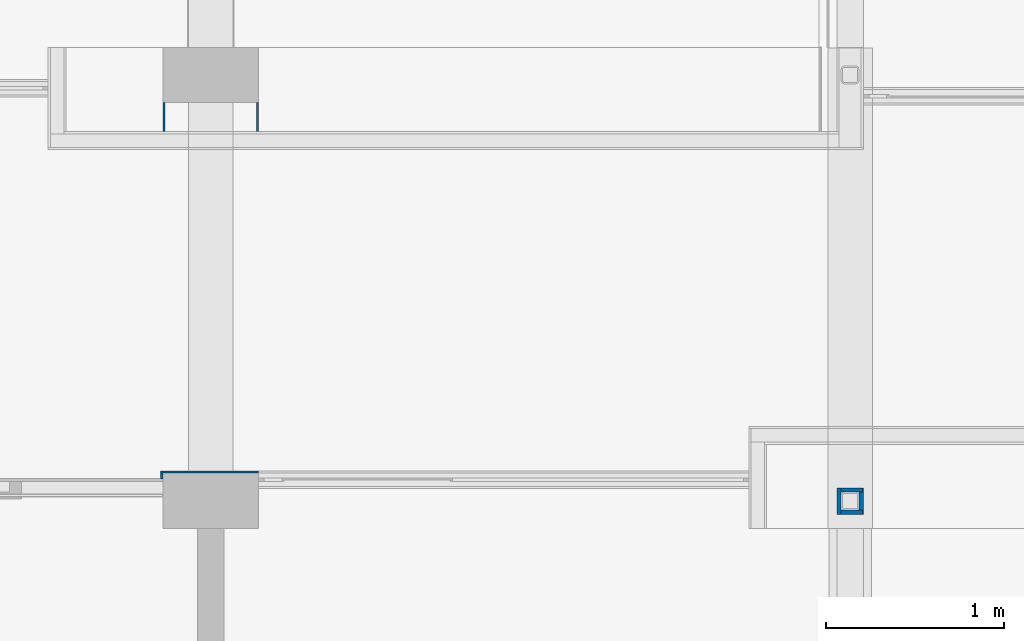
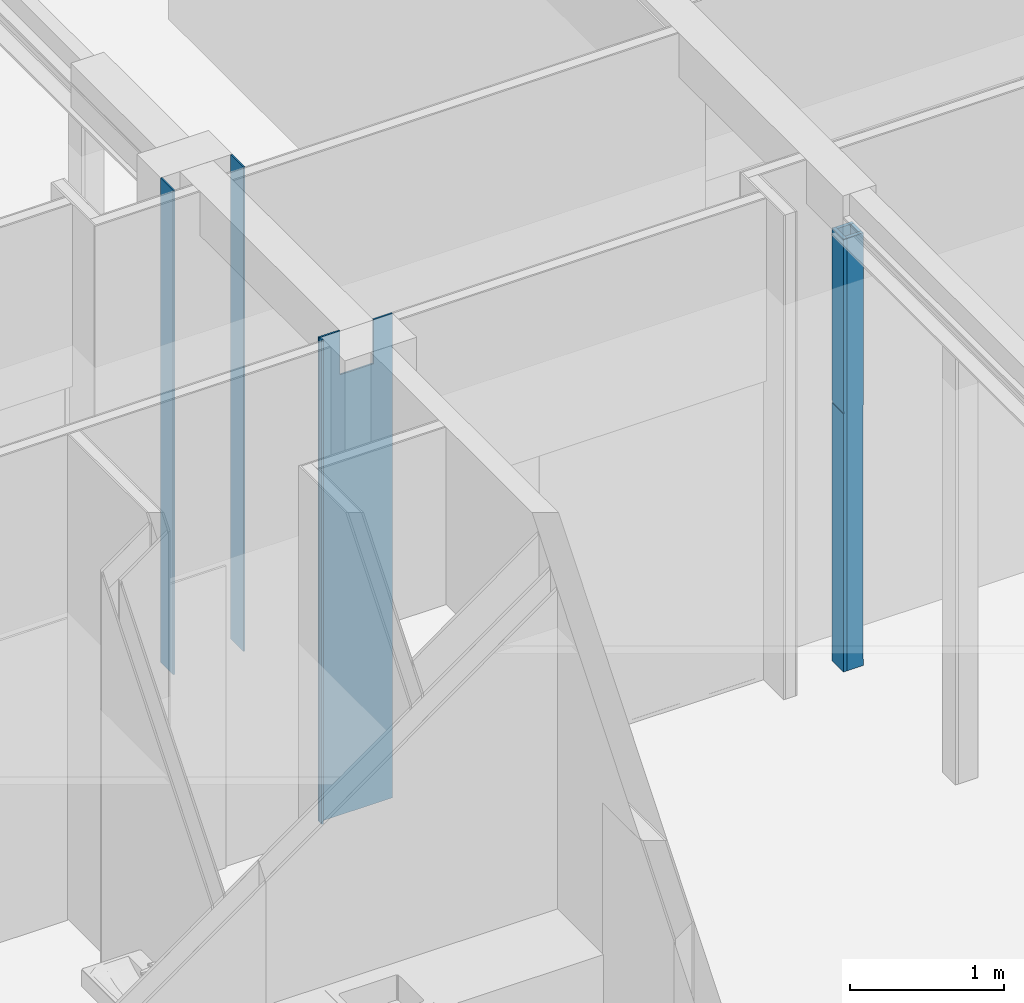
# One storey, part 87 of 135: 8 walls.
"""IFC2X3 building model written with IfcOpenShell, lengths in millimetres."""

from ifc_helpers import new_model, entity, si_unit, converted_unit, derived_unit, money_unit, direction, frame, origin_with_axes, place, context, subcontext, project, spatial, faceted_brep, material, type_object, element, save


model = new_model("IFC2X3")

# Units and contexts
model_context = context("Model", 3, precision=0.01, world=origin_with_axes(), true_north=direction((0.0, 1.0)))
body_context = subcontext(model_context, "Body", "Model", "MODEL_VIEW")
ifc_project = project(units=[si_unit("LENGTHUNIT", "METRE", prefix="MILLI"), si_unit("AREAUNIT", "SQUARE_METRE"), si_unit("VOLUMEUNIT", "CUBIC_METRE"), converted_unit("PLANEANGLEUNIT", "DEGREE", entity("IfcPlaneAngleMeasure", 0.0174532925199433), si_unit("PLANEANGLEUNIT", "RADIAN"), dimensions=[0, 0, 0, 0, 0, 0, 0]), money_unit("EUR"), converted_unit("TIMEUNIT", "Year", entity("IfcTimeMeasure", 31557600.0), si_unit("TIMEUNIT", "SECOND"), dimensions=[0, 0, 1, 0, 0, 0, 0]), si_unit("MASSUNIT", "GRAM", prefix="KILO"), si_unit("THERMODYNAMICTEMPERATUREUNIT", "DEGREE_CELSIUS"), si_unit("LUMINOUSINTENSITYUNIT", "LUMEN"), si_unit("ENERGYUNIT", "JOULE", prefix="MEGA"), derived_unit("THERMALCONDUCTANCEUNIT", [(si_unit("POWERUNIT", "WATT"), 1), (si_unit("LENGTHUNIT", "METRE"), -1), (si_unit("THERMODYNAMICTEMPERATUREUNIT", "KELVIN"), -1)]), derived_unit("SPECIFICHEATCAPACITYUNIT", [(si_unit("ENERGYUNIT", "JOULE"), 1), (si_unit("MASSUNIT", "GRAM", prefix="KILO"), -1), (si_unit("THERMODYNAMICTEMPERATUREUNIT", "KELVIN"), -1)]), derived_unit("MASSDENSITYUNIT", [(si_unit("MASSUNIT", "GRAM", prefix="KILO"), 1), (si_unit("VOLUMEUNIT", "CUBIC_METRE"), -1)])], contexts=[model_context])

# Site, building, storey
site_placement = place(None, origin_with_axes())
site = spatial("IfcSite", under=ifc_project, at=site_placement, Name="Site", CompositionType="ELEMENT")
building_placement = place(site_placement, origin_with_axes())
building = spatial("IfcBuilding", under=site, at=building_placement, Name="Naam gebouw", CompositionType="ELEMENT")
storey_placement = place(building_placement, origin_with_axes())
storey = spatial("IfcBuildingStorey", under=building, at=storey_placement, Name="Begane grond N", CompositionType="ELEMENT", Elevation=0.0)

# Walls
ifc_material = material(Name="Gipsplaat")
wall_type_1 = type_object("IfcWallType", Name="Metalstud 100 enkel 100", PredefinedType="NOTDEFINED")
wall_1_placement = place(storey_placement, frame((35729.99992251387, 20105.91242510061, 0.0), z_axis=(0.0, 0.0, 1.0), x_axis=(0.0, 1.0, 0.0)))
element("IfcWall", 1, at=wall_1_placement, inside=storey, type_object=wall_type_1, material=ifc_material, Name="_Wand-x", context=body_context, shape_type="Brep", body=[
    faceted_brep([(164.9999999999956, -12.50000000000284, 0.0), (164.9999999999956, 0.0, 0.0), (164.9999999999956, 0.0, 3850.0), (164.9999999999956, -12.50000000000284, 3850.0), (0.0, 0.0, 0.0), (0.0, -12.50000000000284, 0.0), (0.0, 0.0, 3850.0), (0.0, -12.50000000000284, 3850.0)], [[[0, 1, 2, 3]], [[4, 1, 0, 5]], [[1, 4, 6, 2]], [[2, 6, 7, 3]], [[5, 0, 3, 7]], [[4, 5, 7, 6]]]),
])
wall_2_placement = place(storey_placement, frame((36270.0, 20105.91242510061, 0.0), z_axis=(0.0, 0.0, 1.0), x_axis=(0.0, 1.0, 0.0)))
element("IfcWall", 2, at=wall_2_placement, inside=storey, type_object=wall_type_1, material=ifc_material, Name="_Wand-x", context=body_context, shape_type="Brep", body=[
    faceted_brep([(164.9999999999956, 0.0, 0.0), (164.9999999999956, 12.50000000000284, 0.0), (164.9999999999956, 12.50000000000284, 3850.0), (164.9999999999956, 0.0, 3850.0), (0.0, 12.50000000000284, 0.0), (0.0, 0.0, 0.0), (0.0, 12.50000000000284, 3850.0), (0.0, 0.0, 3850.0)], [[[0, 1, 2, 3]], [[4, 1, 0, 5]], [[1, 4, 6, 2]], [[2, 6, 7, 3]], [[5, 0, 3, 7]], [[4, 5, 7, 6]]]),
])
wall_type_2 = type_object("IfcWallType", Name="Gipsplaat 25", PredefinedType="NOTDEFINED")
wall_3_placement = place(storey_placement, frame((39525.0, 17950.91242510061, 0.0), z_axis=(0.0, 0.0, 1.0), x_axis=(0.0, 1.0, 0.0)))
element("IfcWall", 3, at=wall_3_placement, inside=storey, type_object=wall_type_2, material=ifc_material, Name="_Wand-x", context=body_context, shape_type="Brep", body=[
    faceted_brep([(149.9999999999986, 0.0, 0.0), (149.9999999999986, 0.0, 2049.999999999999), (149.9999999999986, -4.999999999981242, 2049.999999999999), (149.9999999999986, -4.999999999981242, 2069.999999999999), (149.9999999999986, 0.0, 2069.999999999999), (149.9999999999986, 0.0, 3439.999999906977), (149.9999999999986, -24.99999999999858, 3439.999999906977), (149.9999999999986, -24.99999999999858, 0.0), (0.0, 0.0, 0.0), (0.0, 0.0, 2049.999999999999), (0.0, -4.999999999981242, 2049.999999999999), (0.0, -4.999999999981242, 2069.999999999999), (0.0, 0.0, 2069.999999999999), (0.0, 0.0, 3439.999999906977), (0.0, -24.99999999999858, 3439.999999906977), (0.0, -24.99999999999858, 0.0)], [[[0, 1, 2, 3, 4, 5, 6, 7]], [[8, 9, 1, 0]], [[10, 2, 1, 9]], [[11, 3, 2, 10]], [[12, 4, 3, 11]], [[5, 4, 12, 13]], [[14, 6, 5, 13]], [[15, 7, 6, 14]], [[8, 0, 7, 15]], [[11, 10, 9, 8, 15, 14, 13, 12]]]),
])
wall_4_placement = place(storey_placement, frame((39525.0, 18100.91242510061, 0.0), z_axis=(0.0, 0.0, 1.0), x_axis=(1.0, 0.0, 0.0)))
element("IfcWall", 4, at=wall_4_placement, inside=storey, type_object=wall_type_2, material=ifc_material, Name="_Wand-x", context=body_context, shape_type="Brep", body=[
    faceted_brep([(149.9999999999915, -24.99999999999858, 3439.999999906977), (149.9999999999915, -24.99999999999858, 2069.999999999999), (149.9999999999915, 0.0, 2069.999999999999), (149.9999999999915, 0.0, 3439.999999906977), (145.0000000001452, -24.99999999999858, 2069.999999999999), (24.99999999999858, -24.99999999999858, 3439.999999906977), (24.99999999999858, -24.99999999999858, 0.0), (149.9999999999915, -24.99999999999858, 0.0), (149.9999999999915, -24.99999999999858, 49.99999999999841), (144.9999999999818, -24.99999999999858, 49.99999999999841), (145.0000000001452, 0.0, 2069.999999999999), (144.9999999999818, 0.0, 49.99999999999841), (149.9999999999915, 0.0, 49.99999999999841), (149.9999999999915, 0.0, 0.0), (24.99999999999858, 0.0, 0.0), (24.99999999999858, 0.0, 3439.999999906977)], [[[0, 1, 2, 3]], [[4, 1, 0, 5, 6, 7, 8, 9]], [[4, 10, 2, 1]], [[2, 10, 11, 12, 13, 14, 15, 3]], [[15, 5, 0, 3]], [[15, 14, 6, 5]], [[6, 14, 13, 7]], [[7, 13, 12, 8]], [[11, 9, 8, 12]], [[11, 10, 4, 9]]]),
])
wall_5_placement = place(storey_placement, frame((39525.0, 17950.91242510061, 0.0), z_axis=(0.0, 0.0, 1.0), x_axis=(1.0, 0.0, 0.0)))
element("IfcWall", 5, at=wall_5_placement, inside=storey, type_object=wall_type_2, material=ifc_material, Name="_Wand-x", context=body_context, shape_type="Brep", body=[
    faceted_brep([(149.9999999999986, 0.0, 3439.999999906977), (149.9999999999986, 0.0, 2069.999999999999), (149.9999999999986, 24.99999999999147, 2069.999999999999), (149.9999999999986, 24.99999999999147, 3439.999999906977), (145.0000000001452, 0.0, 2069.999999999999), (24.99999999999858, 0.0, 3439.999999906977), (24.99999999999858, 0.0, 0.0), (149.9999999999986, 0.0, 0.0), (149.9999999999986, 0.0, 49.99999999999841), (144.9999999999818, 0.0, 49.99999999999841), (145.0000000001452, 24.99999999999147, 2069.999999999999), (144.9999999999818, 24.99999999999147, 49.99999999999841), (149.9999999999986, 24.99999999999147, 49.99999999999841), (149.9999999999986, 24.99999999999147, 0.0), (24.99999999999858, 24.99999999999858, 0.0), (24.99999999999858, 24.99999999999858, 3439.999999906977)], [[[0, 1, 2, 3]], [[4, 1, 0, 5, 6, 7, 8, 9]], [[4, 10, 2, 1]], [[2, 10, 11, 12, 13, 14, 15, 3]], [[15, 5, 0, 3]], [[6, 5, 15, 14]], [[6, 14, 13, 7]], [[7, 13, 12, 8]], [[11, 9, 8, 12]], [[11, 10, 4, 9]]]),
])
wall_6_placement = place(storey_placement, frame((39675.0, 17950.91242510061, 0.0), z_axis=(0.0, 0.0, 1.0), x_axis=(0.0, 1.0, 0.0)))
element("IfcWall", 6, at=wall_6_placement, inside=storey, type_object=wall_type_2, material=ifc_material, Name="_Wand-x", context=body_context, shape_type="Brep", body=[
    faceted_brep([(24.99999999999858, 0.0, 3439.999999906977), (24.99999999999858, 0.0, 2069.999999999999), (124.9999999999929, 0.0, 2069.999999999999), (124.9999999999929, 0.0, 3439.999999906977), (24.99999999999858, 4.999999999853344, 2049.999999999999), (24.99999999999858, 4.999999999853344, 2069.999999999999), (24.99999999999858, 24.99999999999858, 3439.999999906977), (24.99999999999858, 24.99999999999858, 0.0), (24.99999999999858, 0.0, 0.0), (24.99999999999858, 0.0, 2049.999999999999), (124.9999999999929, 4.999999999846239, 2069.999999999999), (124.9999999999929, 4.999999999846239, 2049.999999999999), (124.9999999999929, 0.0, 2049.999999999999), (124.9999999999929, 0.0, 0.0), (124.9999999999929, 24.99999999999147, 0.0), (124.9999999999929, 24.99999999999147, 3439.999999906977)], [[[0, 1, 2, 3]], [[4, 5, 1, 0, 6, 7, 8, 9]], [[5, 10, 2, 1]], [[10, 11, 12, 13, 14, 15, 3, 2]], [[0, 3, 15, 6]], [[4, 11, 10, 5]], [[6, 15, 14, 7]], [[7, 14, 13, 8]], [[13, 12, 9, 8]], [[4, 9, 12, 11]]]),
])
wall_type_3 = type_object("IfcWallType", Name="Gipsplaat 13", PredefinedType="NOTDEFINED")
wall_7_placement = place(storey_placement, frame((35717.49999999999, 18195.91242510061, 0.0), z_axis=(0.0, 0.0, 1.0), x_axis=(0.0, -1.0, 0.0)))
element("IfcWall", 7, at=wall_7_placement, inside=storey, type_object=wall_type_3, material=ifc_material, Name="_Wand-x", context=body_context, shape_type="Brep", body=[
    faceted_brep([(12.49999999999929, 0.0, 0.0), (12.49999999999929, 0.0, 3850.0), (12.49999999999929, 12.50000000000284, 3850.0), (12.49999999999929, 12.50000000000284, 0.0), (44.99999999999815, 0.0, 0.0), (44.99999999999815, 0.0, 3850.0), (44.99999999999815, 12.50000000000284, 3850.0), (44.99999999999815, 12.50000000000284, 0.0)], [[[0, 1, 2, 3]], [[4, 5, 1, 0]], [[5, 6, 2, 1]], [[3, 2, 6, 7]], [[0, 3, 7, 4]], [[7, 6, 5, 4]]]),
])
wall_8_placement = place(storey_placement, frame((36270.0, 18195.91242510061, 0.0), z_axis=(0.0, 0.0, 1.0), x_axis=(-1.0, 0.0, 0.0)))
element("IfcWall", 8, at=wall_8_placement, inside=storey, type_object=wall_type_3, material=ifc_material, Name="_Wand-x", context=body_context, shape_type="Brep", body=[
    faceted_brep([(395.0000000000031, 0.0, 3850.0), (395.0000000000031, 0.0, 3499.999993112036), (145.0000000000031, 0.0, 3499.999993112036), (145.0000000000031, 0.0, 3850.0), (0.0, 0.0, 3850.0), (0.0, 0.0, 0.0), (552.5000000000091, 0.0, 0.0), (552.5000000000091, 0.0, 3850.0), (395.0000000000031, 12.49999999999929, 3499.999993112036), (395.0000000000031, 12.49999999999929, 3850.0), (145.0000000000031, 12.49999999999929, 3499.999993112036), (145.0000000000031, 12.49999999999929, 3850.0), (0.0, 12.49999999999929, 3850.0), (0.0, 12.49999999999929, 0.0), (552.5000000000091, 12.49999999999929, 0.0), (552.5000000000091, 12.49999999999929, 3850.0)], [[[0, 1, 2, 3, 4, 5, 6, 7]], [[8, 1, 0, 9]], [[10, 2, 1, 8]], [[10, 11, 3, 2]], [[4, 3, 11, 12]], [[13, 5, 4, 12]], [[5, 13, 14, 6]], [[6, 14, 15, 7]], [[15, 9, 0, 7]], [[10, 8, 9, 15, 14, 13, 12, 11]]]),
])

save(model, "model.ifc")
